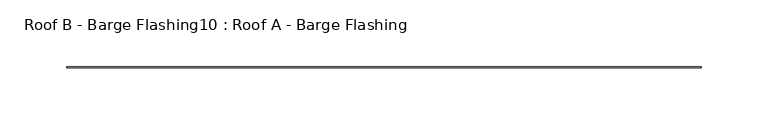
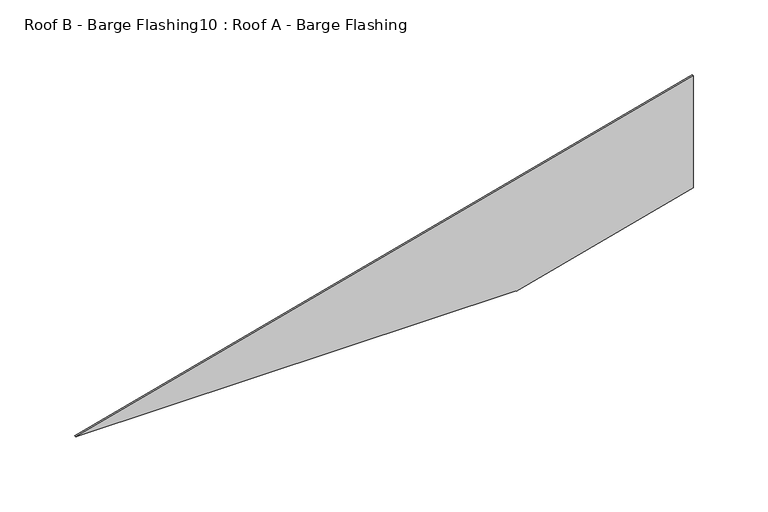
"""IFC4 building model written with IfcOpenShell, lengths in millimetres: proxy geometry, Roof B - Barge Flashing10 : Roof A - Barge Flashing."""

from ifc_helpers import new_model, si_unit, frame, origin, place, context, project, spatial, polyline, outline, extrude, source, transform, mapped, element, save


def roof_b_barge_flashing10_roof_a_barge_flashing_33ecfb67(model_context):
    return source(origin(), model_context, "Body", "SweptSolid", [
        extrude(outline(polyline([(3878.0232796, -3979.0361227), (3878.0232796, -3639.0433047), (3877.6833119, -3639.0433047), (3914.3026431, -3502.3781003), (4005.7434117, -3502.3781003), (3878.0232796, -3979.0361227)])), frame((0.0, -9600.6091566, 0.0), z_axis=(0.0, 1.0, 0.0), x_axis=(0.0, 0.0, 1.0)), (0.0, 0.0, 1.0), 1.0),
    ])


if __name__ == "__main__":
    model = new_model("IFC4")
    model_context = context("Model", 3, world=origin())
    ifc_project = project(units=[si_unit("LENGTHUNIT", "METRE", prefix="MILLI")], contexts=[model_context])
    site = spatial("IfcSite", under=ifc_project)
    building = spatial("IfcBuilding", under=site)
    placement = place(None, origin())
    roof_b_barge_flashing10_roof_a_barge_flashing_shape = roof_b_barge_flashing10_roof_a_barge_flashing_33ecfb67(model_context)
    element("IfcBuildingElementProxy", 1, Name="Roof B - Barge Flashing10 : Roof A - Barge Flashing", ObjectType="Roof B - Barge Flashing10 : Roof A - Barge Flashing", at=placement, inside=building, context=model_context, shape_type="MappedRepresentation", body=[
        mapped(roof_b_barge_flashing10_roof_a_barge_flashing_shape, transform((0.0, 0.0, 0.0), x_axis=(1.0, 0.0, 0.0), y_axis=(0.0, 1.0, 0.0), z_axis=(0.0, 0.0, 1.0))),
    ])
    save(model, "model.ifc")
